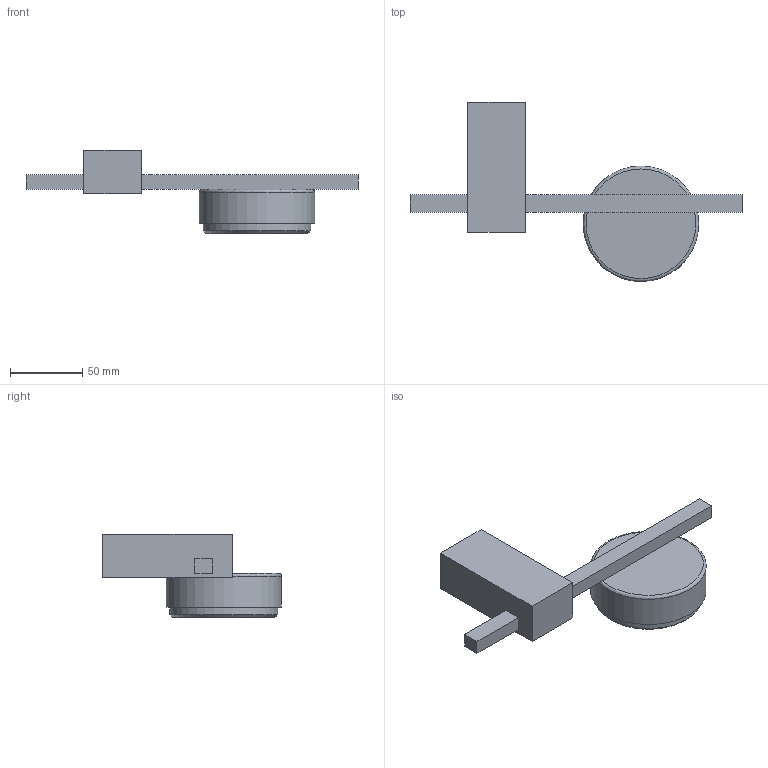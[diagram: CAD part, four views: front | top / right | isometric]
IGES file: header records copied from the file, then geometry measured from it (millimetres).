
Start section: SolidWorks IGES file using analytic representation for surfaces
Global section: file name: X:\PRODUKT\Modele 3D_WWW\_KOLEKCJE WWW\PILLS\8266\PILLS-I-PLAFON-8266.IGS; native system: SolidWorks 2021; preprocessor: SolidWorks 2021; author: gabriela.tworek; date: 221212.083736; units: millimetre
Bounding box: 230 x 124 x 57.6 mm (x, y, z)
Surface area: 51121.2 mm2 (no closed solid volume)
Topology: 0 solids, 0 shells, 20 faces, 64 edges, 60 vertices
Faces by surface type: bspline 16, revolution 4
